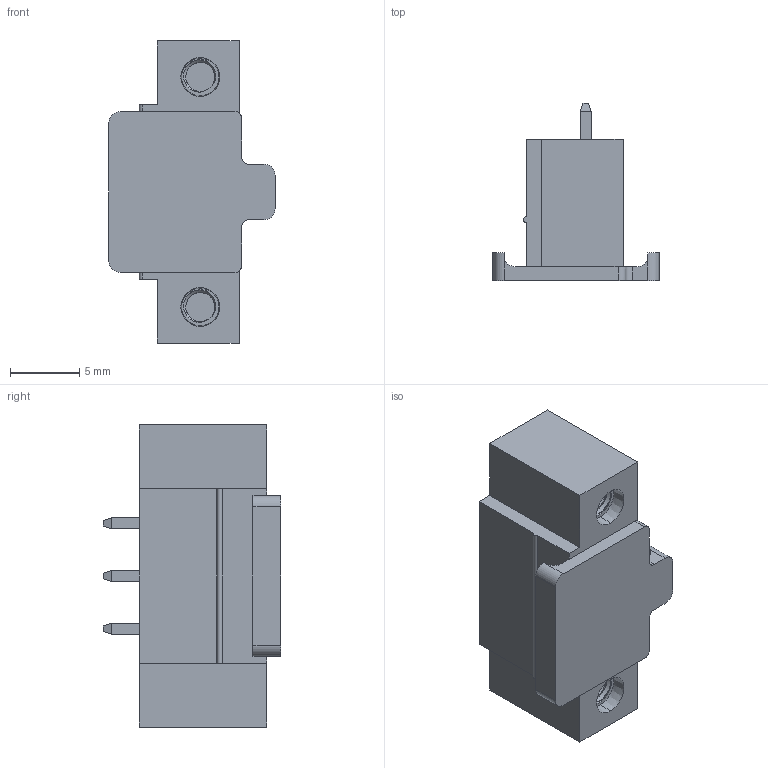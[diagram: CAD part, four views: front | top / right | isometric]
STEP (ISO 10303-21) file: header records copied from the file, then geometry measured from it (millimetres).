
FILE_DESCRIPTION((''),'2;1');
FILE_NAME('3P','2022-06-14T',('renkang.li'),(''),'CREO PARAMETRIC BY PTC INC, 2016260','CREO PARAMETRIC BY PTC INC, 2016260','');
FILE_SCHEMA(('CONFIG_CONTROL_DESIGN'));
Length unit declared in the file: millimetre
Products named in the file (1): 3P
Bounding box: 12 x 12.8 x 21.82 mm (x, y, z)
Volume: 938.4 mm3; surface area: 2158.2 mm2
Topology: 1 solids, 1 shells, 540 faces, 1547 edges, 1009 vertices
Faces by surface type: plane 412, cylinder 78, cone 30, torus 12, bspline 8
Entity records: 20002 total; most frequent: CARTESIAN_POINT 5882, ORIENTED_EDGE 3094, DIRECTION 2729, EDGE_CURVE 1547, VECTOR 1167, LINE 1167, VERTEX_POINT 1009, AXIS2_PLACEMENT_3D 781
